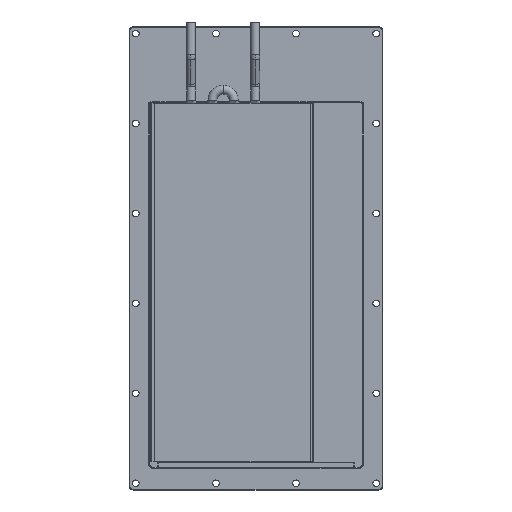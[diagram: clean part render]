
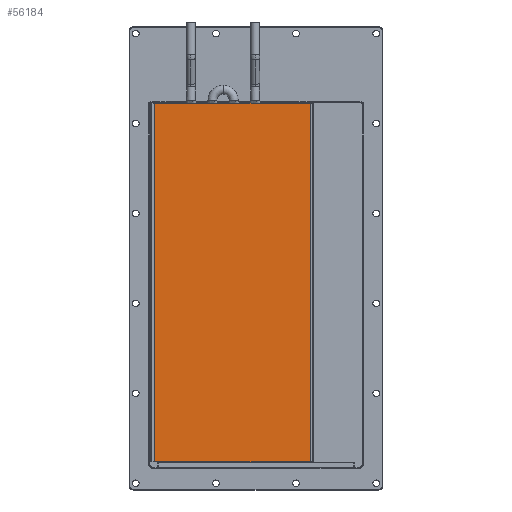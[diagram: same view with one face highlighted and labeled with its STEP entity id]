
A CAD part, front view. The second image highlights one B-rep face of the part: STEP entity #56184.
In plain terms, the highlighted planar face has unit normal (0, -1, 0).
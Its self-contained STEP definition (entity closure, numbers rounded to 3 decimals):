
#1811 = DIRECTION ( 'NONE',  ( 1., 0., 0. ) ) ;
#5285 = VERTEX_POINT ( 'NONE', #72350 ) ;
#5326 = ORIENTED_EDGE ( 'NONE', *, *, #83499, .F. ) ;
#6029 = ORIENTED_EDGE ( 'NONE', *, *, #82447, .F. ) ;
#10323 = CARTESIAN_POINT ( 'NONE',  ( -87.5, 1., 403. ) ) ;
#13271 = DIRECTION ( 'NONE',  ( 0., 0., -1. ) ) ;
#13706 = DIRECTION ( 'NONE',  ( 0., -1., 0. ) ) ;
#14953 = AXIS2_PLACEMENT_3D ( 'NONE', #19993, #13706, #64200 ) ;
#17647 = ORIENTED_EDGE ( 'NONE', *, *, #67136, .T. ) ;
#17870 = DIRECTION ( 'NONE',  ( 0., 0., -1. ) ) ;
#19993 = CARTESIAN_POINT ( 'NONE',  ( -87.5, 1., 587.09 ) ) ;
#21780 = LINE ( 'NONE', #31952, #42467 ) ;
#29570 = PLANE ( 'NONE',  #14953 ) ;
#31952 = CARTESIAN_POINT ( 'NONE',  ( -87.5, 1., 587.09 ) ) ;
#33532 = VERTEX_POINT ( 'NONE', #47527 ) ;
#34441 = CARTESIAN_POINT ( 'NONE',  ( -87.5, 1., 0. ) ) ;
#35018 = DIRECTION ( 'NONE',  ( -1., 0., 0. ) ) ;
#35142 = CARTESIAN_POINT ( 'NONE',  ( 87.5, 1., 403. ) ) ;
#35251 = LINE ( 'NONE', #10323, #110828 ) ;
#38290 = CARTESIAN_POINT ( 'NONE',  ( 87.5, 1., 0. ) ) ;
#42467 = VECTOR ( 'NONE', #13271, 1000. ) ;
#47527 = CARTESIAN_POINT ( 'NONE',  ( -87.5, 1., 403. ) ) ;
#56184 = ADVANCED_FACE ( 'NONE', ( #81258 ), #29570, .T. ) ;
#62870 = EDGE_LOOP ( 'NONE', ( #82893, #17647, #6029, #5326 ) ) ;
#64200 = DIRECTION ( 'NONE',  ( 1., 0., 0. ) ) ;
#67136 = EDGE_CURVE ( 'NONE', #33532, #5285, #21780, .T. ) ;
#72350 = CARTESIAN_POINT ( 'NONE',  ( -87.5, 1., 0. ) ) ;
#78714 = VECTOR ( 'NONE', #35018, 1000. ) ;
#80250 = LINE ( 'NONE', #95680, #107946 ) ;
#81258 = FACE_OUTER_BOUND ( 'NONE', #62870, .T. ) ;
#82447 = EDGE_CURVE ( 'NONE', #100298, #5285, #105462, .T. ) ;
#82893 = ORIENTED_EDGE ( 'NONE', *, *, #103555, .F. ) ;
#83499 = EDGE_CURVE ( 'NONE', #90602, #100298, #80250, .T. ) ;
#90602 = VERTEX_POINT ( 'NONE', #35142 ) ;
#95680 = CARTESIAN_POINT ( 'NONE',  ( 87.5, 1., 587.09 ) ) ;
#100298 = VERTEX_POINT ( 'NONE', #38290 ) ;
#103555 = EDGE_CURVE ( 'NONE', #33532, #90602, #35251, .T. ) ;
#105462 = LINE ( 'NONE', #34441, #78714 ) ;
#107946 = VECTOR ( 'NONE', #17870, 1000. ) ;
#110828 = VECTOR ( 'NONE', #1811, 1000. ) ;
